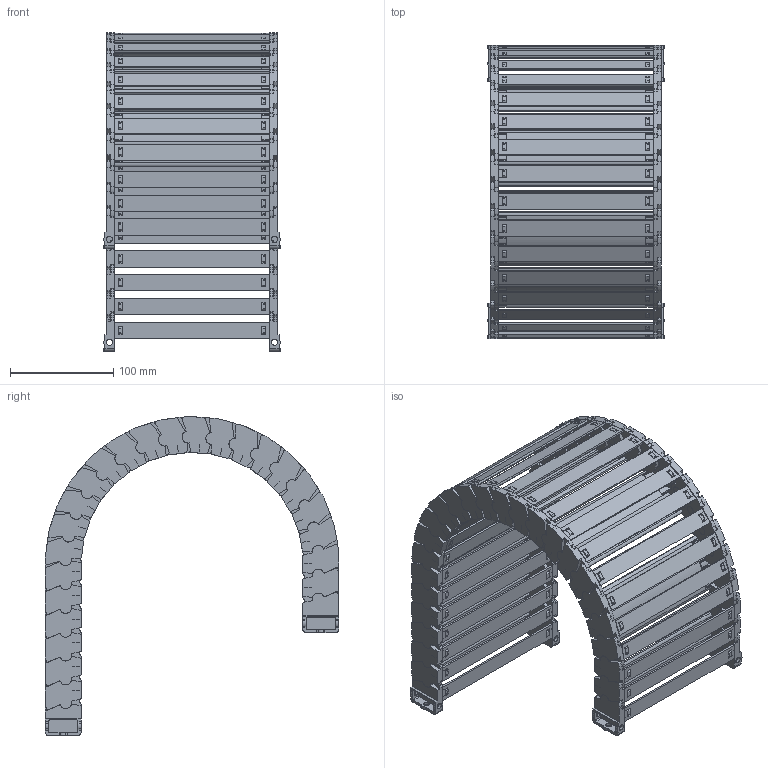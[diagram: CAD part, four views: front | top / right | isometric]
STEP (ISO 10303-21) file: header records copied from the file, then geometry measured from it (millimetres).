
FILE_DESCRIPTION((''),'2;1');
FILE_NAME('JY-25X150-R125_ASM','2022-05-07T11:01:19',('admin'),(''),'CREO PARAMETRIC BY PTC INC, 2021164','CREO PARAMETRIC BY PTC INC, 2021164','');
FILE_SCHEMA(('CONFIG_CONTROL_DESIGN','GEOMETRIC_VALIDATION_PROPERTIES_MIM'));
Length unit declared in the file: millimetre
Products named in the file (11): 25XL-L; 25-35XL-YP; 25XL-R; ASM0001_ASM; 25-LTT-A-L; 25-LTT-A-R; 25XL-LTT-A_ASM; 25-LTT-B-L; 25-LTT-B-R; 25XL-LTT-B_ASM; JY-25X150-R125_ASM
Assembly tree (38 placements, depth 3):
  JY-25X150-R125_ASM
    ASM0001_ASM  x24
      25XL-L
      25-35XL-YP
      25XL-R
    25XL-LTT-A_ASM
      25-LTT-A-L
      25-35XL-YP  x2
      25-LTT-A-R
    25XL-LTT-B_ASM
      25-LTT-B-L
      25-35XL-YP  x2
      25-LTT-B-R
Bounding box: 171.18 x 284.61 x 309.36 mm (x, y, z)
Volume: 691770.8 mm3; surface area: 504548.1 mm2
Topology: 104 solids, 128 shells, 5398 faces, 16134 edges, 10918 vertices
Faces by surface type: plane 3982, cylinder 1368, cone 48
Entity records: 24131 total; most frequent: CARTESIAN_POINT 3132, DIRECTION 3027, ORIENTED_EDGE 2962, EDGE_CURVE 1483, PRESENTATION_STYLE_ASSIGNMENT 1413, STYLED_ITEM 1381, VECTOR 1053, LINE 1053
